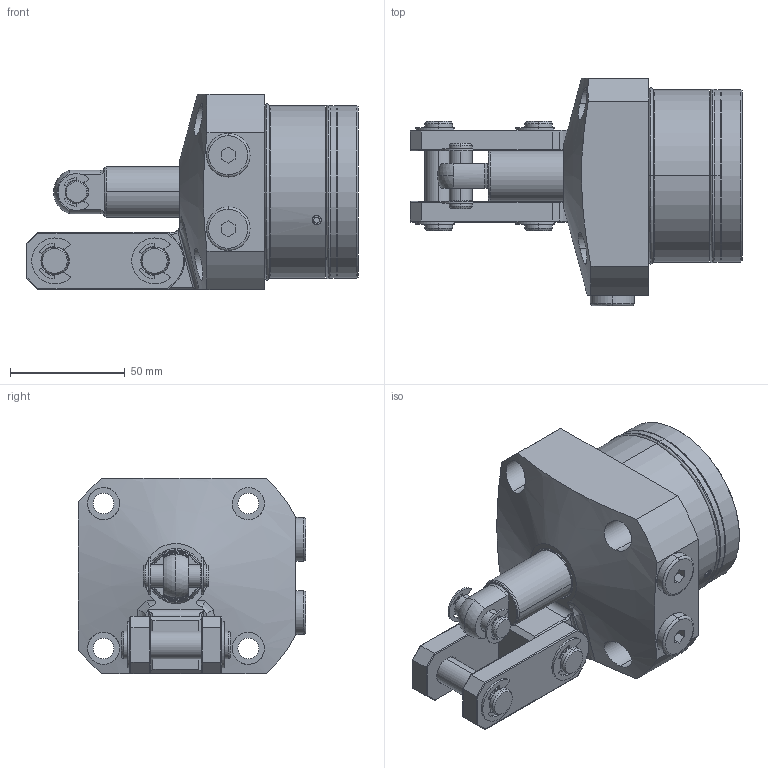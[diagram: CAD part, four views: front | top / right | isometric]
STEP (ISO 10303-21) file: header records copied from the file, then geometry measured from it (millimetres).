
FILE_DESCRIPTION(/* description */ (''),/* implementation_level */ '2;1');
FILE_NAME(/* name */ 'KTPW75-LJ.stp',/* time_stamp */ '2022-11-20T08:50:15+08:00',/* author */ (''),/* organization */ (''),/* preprocessor_version */ 'ST-DEVELOPER v16.7',/* originating_system */ 'SIEMENS PLM Software NX 12.0',/* authorisation */ '');
FILE_SCHEMA (('AP203_CONFIGURATION_CONTROLLED_3D_DESIGN_OF_MECHANICAL_PARTS_AND_ASSEMBLIES_MIM_LF { 1 0 10303 403 2 1 2}'));
Length unit declared in the file: millimetre
Products named in the file (11): KTPW75-LJ-06; KTPW75-LJ-03; KTPW75-LJ-01; KTPW75-LJ-09; KTPW75-LJ-05; KTPW75-LJ-010; KTPW75-LJ-07; KTPW75-LJ-02; KTPW75-LJ-04; KTPW75-LJ-08; LKW0751-CLJ_step
Assembly tree (18 placements, depth 2):
  LKW0751-CLJ_step
    KTPW75-LJ-08  x2
    KTPW75-LJ-04  x2
    KTPW75-LJ-02
    KTPW75-LJ-07  x4
    KTPW75-LJ-010  x2
    KTPW75-LJ-05  x2
    KTPW75-LJ-09  x2
    KTPW75-LJ-01
    KTPW75-LJ-03
    KTPW75-LJ-06
Bounding box: 144.5 x 99 x 85 mm (x, y, z)
Volume: 468424.1 mm3; surface area: 81456.7 mm2
Topology: 20 solids, 20 shells, 644 faces, 1498 edges, 929 vertices
Faces by surface type: cylinder 280, plane 166, torus 114, cone 72, bspline 10, sphere 2
Full cylindrical faces by diameter (mm): 75 x1
Entity records: 13468 total; most frequent: CARTESIAN_POINT 2962, DIRECTION 2069, ORIENTED_EDGE 1762, EDGE_CURVE 881, AXIS2_PLACEMENT_3D 870, VERTEX_POINT 542, CIRCLE 470, EDGE_LOOP 441
